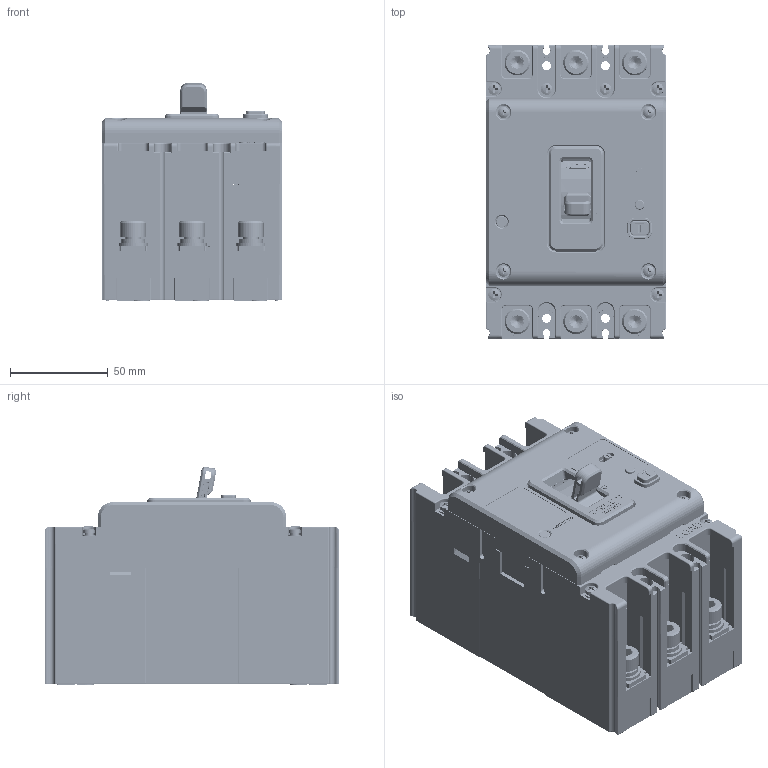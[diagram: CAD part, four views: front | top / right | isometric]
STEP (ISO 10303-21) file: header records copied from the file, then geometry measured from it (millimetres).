
FILE_DESCRIPTION((''),'2;1');
FILE_NAME('2256022400_ASM','2017-12-20T',('yan.shen'),(''),'PRO/ENGINEER BY PARAMETRIC TECHNOLOGY CORPORATION, 2015440','PRO/ENGINEER BY PARAMETRIC TECHNOLOGY CORPORATION, 2015440','');
FILE_SCHEMA(('CONFIG_CONTROL_DESIGN'));
Products named in the file (47): 8024033000; GB_T809_M3_5X12; 5024037900_ASM; 8551018600; 5551030000_ASM; 8510020900; 5420039200_ASM; 5420039500_ASM; 5615028400_ASM; 8510020800; 5420039100_ASM; 5420039400_ASM; 5615028300_ASM; 8510021000; 5420039300_ASM; 5420039600_ASM; 5615028500_ASM; 6176013300_ASM; 6760011500_ASM; 8742105400; 8750031500; 8760013600; 8750031300; 8253059200; 8865077900_AF0; 8865078000_AF0; 5253022500_ASM; 7010600401L_GB_T70_1_M8X16; 7090370701K_GB_T93_8; GB_T97_4_8; 5850008100_ASM; 8253063000; 6716014700_ASM; 8315063200; 8282073000_AF0; 8253059300; 8315063400; 8253063200; 7020100411_GB13806_2_ST2_9X8_A; 8322007300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
Assembly tree (75 placements, depth 7):
  2256022400_ASM
    6760011500_ASM
      5024037900_ASM
        8024033000
        GB_T809_M3_5X12  x6
      5551030000_ASM  x3
        8551018600
      6176013300_ASM
        5615028400_ASM
          5420039500_ASM
            5420039200_ASM
              8510020900
        5615028300_ASM
          5420039400_ASM
            5420039100_ASM
              8510020800
        5615028500_ASM
          5420039600_ASM
            5420039300_ASM
              8510021000
    8742105400  x3
    8750031500  x3
    8760013600  x6
    8750031300
    5253022500_ASM
      8253059200
      8865077900_AF0
      8865078000_AF0
    5850008100_ASM  x6
      7010600401L_GB_T70_1_M8X16
      7090370701K_GB_T93_8
      GB_T97_4_8
    6716014700_ASM
      8253063000
    5315044800_ASM
      8315063200
      8282073000_AF0
      8253059300
      8315063400
      8253063200
      7020100411_GB13806_2_ST2_9X8_A  x4
      8322007300
    5850007200_ASM  x6
      GB_T823-M3_5X30
      7090300201_GB_T93_3
      8950019500
    8300048900
Bounding box: 92 x 150 x 111.64 mm (x, y, z)
Volume: 423995.7 mm3; surface area: 325533.1 mm2
Topology: 77 solids, 106 shells, 6000 faces, 15834 edges, 10154 vertices
Faces by surface type: plane 3673, cylinder 1546, extrusion 208, cone 203, torus 186, bspline 145, sphere 39
Entity records: 164101 total; most frequent: CARTESIAN_POINT 44147, ORIENTED_EDGE 25482, DIRECTION 23669, EDGE_CURVE 12757, VECTOR 9327, LINE 9119, VERTEX_POINT 8214, AXIS2_PLACEMENT_3D 7171
